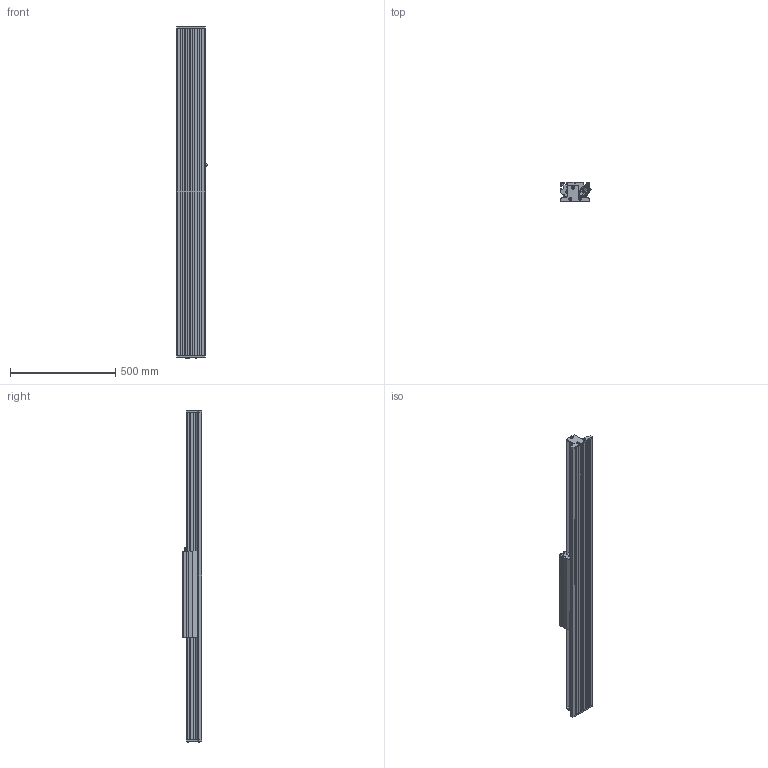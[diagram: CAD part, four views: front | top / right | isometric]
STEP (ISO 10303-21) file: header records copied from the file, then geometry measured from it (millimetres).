
FILE_DESCRIPTION (( 'STEP AP214' ), '1' );
FILE_NAME ('SINADRIVES Linear Motor Stage MLL20630XS-XX-1-0-ST-00-01572.STEP', '2015-07-07T07:53:26', ( 'Tecnico' ), ( '' ), 'SwSTEP 2.0', 'SolidWorks 2009', '' );
FILE_SCHEMA (( 'AUTOMOTIVE_DESIGN' ));
Length unit declared in the file: millimetre
Products named in the file (7): SINADRIVES CARRIAGE MLL20630XS-1; CARRIAGE MLL20630; Connector power+signal Y-tec 45; SINADRIVES PROFILE MLL2XXXX-1556; SINADRIVES ENDBLOCK MLL2; SINADRIVES ENDBLOCK MLL2-2; SINADRIVES Linear Motor Stage MLL20630XS-XX-1-0-ST-00-01572
Assembly tree (6 placements, depth 3):
  SINADRIVES Linear Motor Stage MLL20630XS-XX-1-0-ST-00-01572
    SINADRIVES ENDBLOCK MLL2-2
    SINADRIVES CARRIAGE MLL20630XS-1
      CARRIAGE MLL20630
      Connector power+signal Y-tec 45
    SINADRIVES ENDBLOCK MLL2
    SINADRIVES PROFILE MLL2XXXX-1556
Bounding box: 144.43 x 91 x 1580.8 mm (x, y, z)
Volume: 8543190.9 mm3; surface area: 1454372.2 mm2
Topology: 2 solids, 42 shells, 950 faces, 2640 edges, 1730 vertices
Faces by surface type: plane 445, cylinder 302, bspline 79, cone 70, torus 42, sphere 12
Entity records: 40587 total; most frequent: CARTESIAN_POINT 8656, ORIENTED_EDGE 5024, DIRECTION 4947, EDGE_CURVE 2622, AXIS2_PLACEMENT_3D 1781, VERTEX_POINT 1730, LINE 1385, VECTOR 1385
